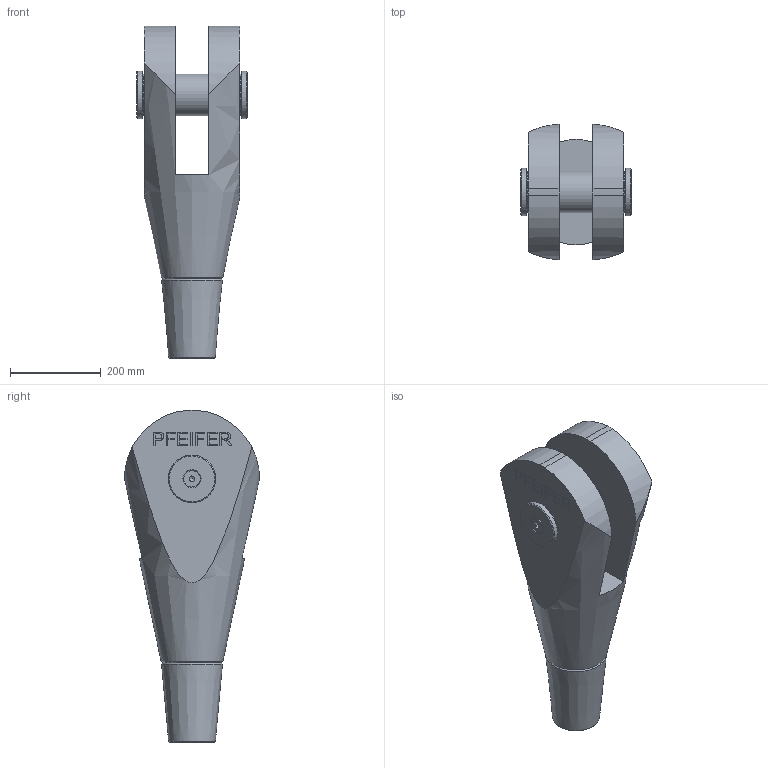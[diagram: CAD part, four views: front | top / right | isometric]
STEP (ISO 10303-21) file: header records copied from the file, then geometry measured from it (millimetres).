
FILE_DESCRIPTION(/* description */ (''),/* implementation_level */ '2;1');
FILE_NAME(/* name */ 'C:\Vault_WS\Designs\520-090-GAK.stp',/* time_stamp */ '2020-06-25T08:05:59+02:00',/* author */ ('schwarz'),/* organization */ (''),/* preprocessor_version */ 'ST-DEVELOPER v16.1',/* originating_system */ 'Autodesk Inventor 2016',/* authorisation */ '');
FILE_SCHEMA (('AUTOMOTIVE_DESIGN { 1 0 10303 214 3 1 1 }'));
Length unit declared in the file: centimetre
Products named in the file (1): 520-090-GAK-KMU-Kunde
Bounding box: 244 x 298.31 x 732.97 mm (x, y, z)
Volume: 17982295.9 mm3; surface area: 787322.4 mm2
Topology: 2 solids, 6 shells, 207 faces, 544 edges, 370 vertices
Faces by surface type: plane 144, bspline 24, cylinder 20, cone 19
Full cylindrical faces by diameter (mm): 17.294 x2, 20 x2, 22 x2, 36.05 x2, 92 x1, 93 x1, 95 x2, 105 x2
Entity records: 6368 total; most frequent: CARTESIAN_POINT 1419, ORIENTED_EDGE 970, DIRECTION 848, EDGE_CURVE 485, LINE 364, VECTOR 364, VERTEX_POINT 337, EDGE_LOOP 262
